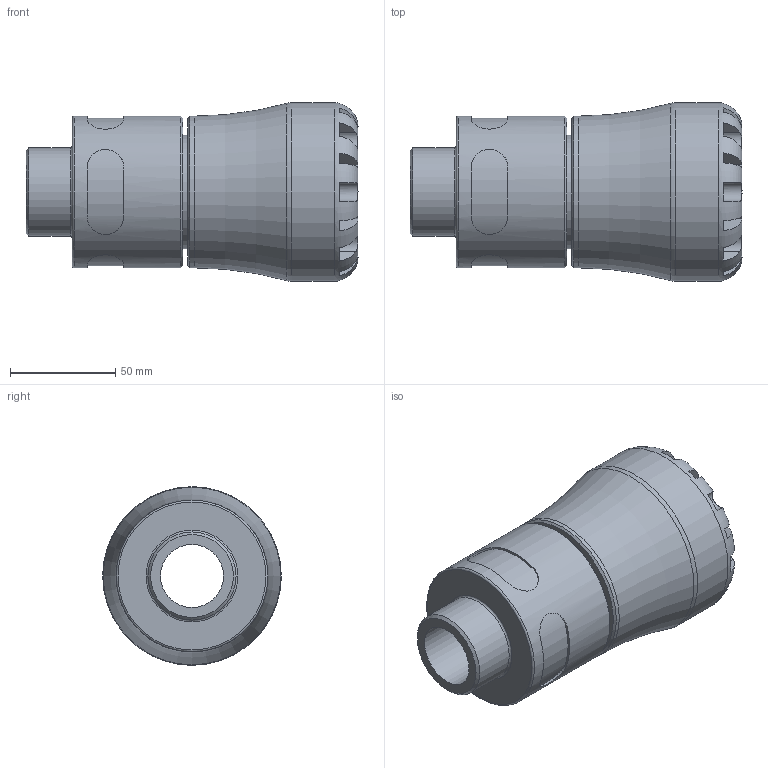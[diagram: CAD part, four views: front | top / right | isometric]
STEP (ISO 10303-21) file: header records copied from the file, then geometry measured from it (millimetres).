
FILE_DESCRIPTION(/* description */ ('PLASSON MALE ADAPTOR 50X1.1/4" SERIES 1'),/* implementation_level */ '2;1');
FILE_NAME(/* name */ 'C:\Dropbox\KIMPROJECTS-Inventor 2019\99-16-3568-Processing\S1\10N20\stp\10N200050013_10N2G0050013.stp',/* time_stamp */ '2024-03-12T13:19:56+01:00',/* author */ ('KIM'),/* organization */ (''),/* preprocessor_version */ 'ST-DEVELOPER v17.2',/* originating_system */ 'Autodesk Inventor 2019',/* authorisation */ '');
FILE_SCHEMA (('AUTOMOTIVE_DESIGN { 1 0 10303 214 3 1 1 }'));
Length unit declared in the file: millimetre
Products named in the file (1): 10N200050013_10N2G0050013
Bounding box: 158 x 85 x 85 mm (x, y, z)
Volume: 431753.8 mm3; surface area: 68355.1 mm2
Topology: 1 solids, 1 shells, 106 faces, 279 edges, 182 vertices
Faces by surface type: plane 62, cylinder 35, torus 5, cone 4
Full cylindrical faces by diameter (mm): 30 x1, 41.91 x1, 50 x1, 54 x1, 72.25 x2, 85 x1
Entity records: 4222 total; most frequent: CARTESIAN_POINT 1488, ORIENTED_EDGE 558, DIRECTION 552, EDGE_CURVE 279, AXIS2_PLACEMENT_3D 230, VERTEX_POINT 182, CIRCLE 123, EDGE_LOOP 115
